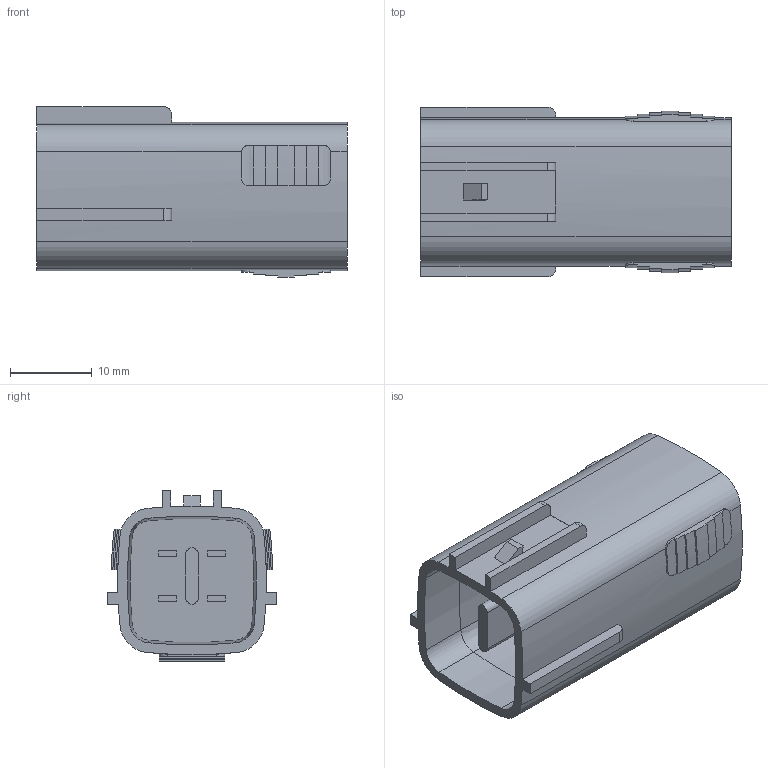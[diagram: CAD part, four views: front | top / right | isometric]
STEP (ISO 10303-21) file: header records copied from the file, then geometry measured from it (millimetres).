
FILE_DESCRIPTION(('CATIA V5 STEP Exchange','CAx-IF Rec.Pracs.--- Model Styling and Organization---1.2---2011-12-15'),'2;1');
FILE_NAME('N:\C-DAM_MyDesk\ENV\900093\6195-0018.stp','2015-06-23T07:25:27+00:00',('none'),('none'),'CATIA Version 5-6 Release 2012 SP4 HF74','CATIA V5 STEP AP214','none');
FILE_SCHEMA(('AUTOMOTIVE_DESIGN { 1 0 10303 214 1 1 1 1 }'));
Length unit declared in the file: millimetre
Products named in the file (1): 6195-0018
Bounding box: 38 x 20.8 x 20.9 mm (x, y, z)
Volume: 8715.5 mm3; surface area: 4413 mm2
Topology: 1 solids, 1 shells, 153 faces, 408 edges, 269 vertices
Faces by surface type: plane 89, cylinder 54, cone 8, bspline 2
Entity records: 4569 total; most frequent: CARTESIAN_POINT 959, ORIENTED_EDGE 816, DIRECTION 598, EDGE_CURVE 408, VECTOR 271, LINE 271, VERTEX_POINT 269, AXIS2_PLACEMENT_3D 219
